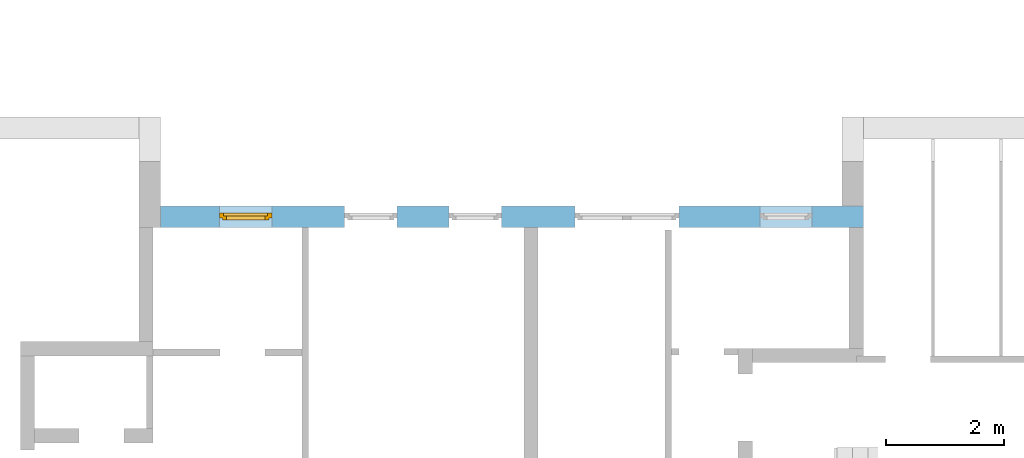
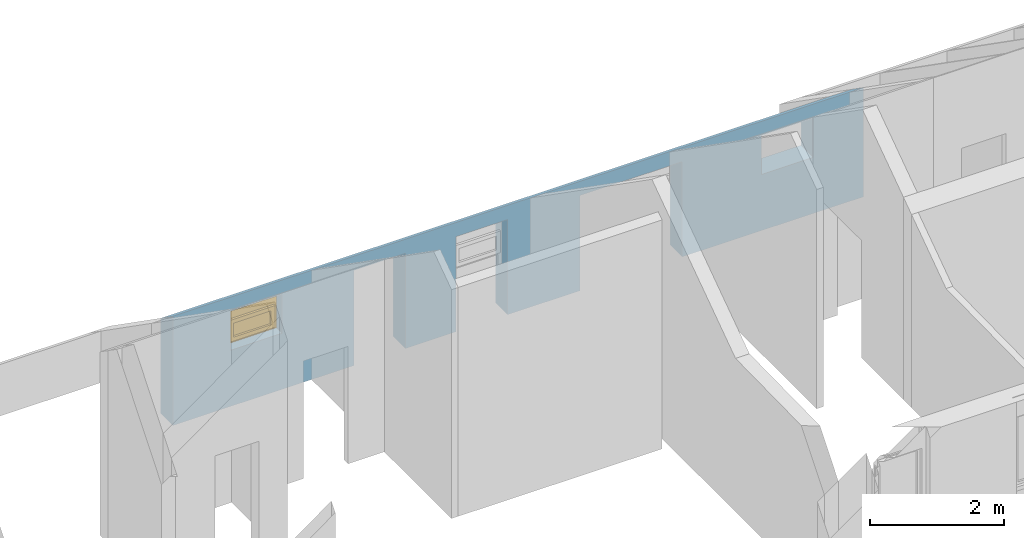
# One storey, part 20 of 23: 1 window, 5 openings, plus 1 element that does not belong to this part.
"""IFC2X3 building model written with IfcOpenShell, lengths in millimetres."""

from ifc_helpers import new_model, entity, si_unit, converted_unit, frame, frame_2d, origin, origin_with_axes, place, context, subcontext, project, spatial, rectangle, extrude, clip, halfspace, faceted_brep, material, layer, layer_set, layer_usage, type_object, element, fill, save


model = new_model("IFC2X3")

# Units and contexts
model_context = context("Model", 3, precision=1e-05, world=origin())
body_context = subcontext(model_context, "Body", "Model", "MODEL_VIEW")
ifc_project = project(units=[si_unit("LENGTHUNIT", "METRE", prefix="MILLI"), converted_unit("PLANEANGLEUNIT", "DEGREE", entity("IfcPlaneAngleMeasure", 0.0174532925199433), si_unit("PLANEANGLEUNIT", "RADIAN"), dimensions=[0, 0, 0, 0, 0, 0, 0]), si_unit("AREAUNIT", "SQUARE_METRE"), si_unit("VOLUMEUNIT", "CUBIC_METRE")], contexts=[model_context])

# Building, storey
building_placement = place(None, origin())
building = spatial("IfcBuilding", under=ifc_project, at=building_placement, Name="Gebäude", CompositionType="ELEMENT")
storey_placement = place(building_placement, frame((0.0, 0.0, 5580.0), z_axis=(0.0, 0.0, 1.0), x_axis=(1.0, 0.0, 0.0)))
storey = spatial("IfcBuildingStorey", under=building, at=storey_placement, Name="DG.- Grundriss", CompositionType="ELEMENT", Elevation=5580.0)

# Wall, openings, window
ifc_material_1 = material(Name="Poroton")
ifc_layer = layer(ifc_material_1, 365.0000000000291)
ifc_layer_set = layer_set([ifc_layer])
ifc_layer_usage = layer_usage(ifc_layer_set, "AXIS2", "POSITIVE", 0.0)
wall_placement = place(storey_placement, frame((176237.7928067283, 134774.8877324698, 0.0), z_axis=(0.0, 0.0, 1.0), x_axis=(-1.0, 0.0, 0.0)))
wall = element("IfcWallStandardCase", 1, at=wall_placement, inside=storey, material=ifc_layer_usage, Name="<Unnamed Element>", context=body_context, shape_type="Clipping", body=[
    clip(extrude(rectangle(XDim=11869.99999999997, YDim=365.0000000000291, at=frame_2d((5934.999999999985, 182.5000000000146), x_axis=(1.0, 0.0))), origin_with_axes(), (0.0, 0.0, 1.0), 1985.88705876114), halfspace(frame((0.0, 0.0, 1730.311307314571), z_axis=(3.082338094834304e-17, 0.5735764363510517, -0.8191520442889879), x_axis=(1.0, 0.0, 0.0)), True)),
])
opening_1_placement = place(wall_placement, frame((7875.000000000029, 0.0, 0.0), z_axis=(0.0, 1.0, 0.0), x_axis=(0.0, 0.0, 1.0)))
element("IfcOpeningElement", 2, at=opening_1_placement, cuts=wall, Name="Fensteröffnung", ObjectType="Opening", context=body_context, shape_type="SweptSolid", body=[
    extrude(rectangle(XDim=1730.311307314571, YDim=885.0, at=frame_2d((865.1556536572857, 442.5), x_axis=(1.0, 0.0))), origin_with_axes(), (0.0, 0.0, 1.0), 365.0000000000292),
])
opening_2_placement = place(wall_placement, frame((6115.000000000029, 0.0, 0.0), z_axis=(0.0, 1.0, 0.0), x_axis=(0.0, 0.0, 1.0)))
element("IfcOpeningElement", 3, at=opening_2_placement, cuts=wall, Name="Fensteröffnung", ObjectType="Opening", context=body_context, shape_type="SweptSolid", body=[
    extrude(rectangle(XDim=1730.311307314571, YDim=885.0, at=frame_2d((865.1556536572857, 442.5), x_axis=(1.0, 0.0))), origin_with_axes(), (0.0, 0.0, 1.0), 365.0000000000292),
])
opening_3_placement = place(wall_placement, frame((9990.00000000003, 0.0, 1020.0), z_axis=(0.0, 1.0, 0.0), x_axis=(0.0, 0.0, 1.0)))
opening_3 = element("IfcOpeningElement", 4, at=opening_3_placement, cuts=wall, Name="Fensteröffnung", ObjectType="Opening", context=body_context, shape_type="SweptSolid", body=[
    extrude(rectangle(XDim=710.3113073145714, YDim=885.0, at=frame_2d((355.1556536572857, 442.5), x_axis=(1.0, 0.0))), origin_with_axes(), (0.0, 0.0, 1.0), 365.0000000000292),
])
opening_4_placement = place(wall_placement, frame((3115.000000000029, 0.0, 0.0), z_axis=(0.0, 1.0, 0.0), x_axis=(0.0, 0.0, 1.0)))
element("IfcOpeningElement", 5, at=opening_4_placement, cuts=wall, Name="Fensteröffnung", ObjectType="Opening", context=body_context, shape_type="SweptSolid", body=[
    extrude(rectangle(XDim=1730.311307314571, YDim=1760.0, at=frame_2d((865.1556536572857, 880.0), x_axis=(1.0, 0.0))), origin_with_axes(), (0.0, 0.0, 1.0), 365.0000000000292),
])
opening_5_placement = place(wall_placement, frame((865.0000000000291, 0.0, 1020.0), z_axis=(0.0, 1.0, 0.0), x_axis=(0.0, 0.0, 1.0)))
element("IfcOpeningElement", 6, at=opening_5_placement, cuts=wall, Name="Fensteröffnung", ObjectType="Opening", context=body_context, shape_type="SweptSolid", body=[
    extrude(rectangle(XDim=710.3113073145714, YDim=885.0, at=frame_2d((355.1556536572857, 442.5), x_axis=(1.0, 0.0))), origin_with_axes(), (0.0, 0.0, 1.0), 365.0000000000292),
])
ifc_material_2 = material()
window_style = type_object("IfcWindowStyle", Name="Fenster", ConstructionType="NOTDEFINED", OperationType="USERDEFINED", ParameterTakesPrecedence=False, Sizeable=False)
window_placement = place(opening_3_placement, frame((0.0, 0.0, 0.0), z_axis=(1.0, 0.0, 0.0), x_axis=(0.0, 1.0, 0.0)))
window = element("IfcWindow", 7, at=window_placement, inside=storey, type_object=window_style, material=ifc_material_2, Name="Fenster", OverallHeight=965.88705876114, OverallWidth=885.0, context=body_context, shape_type="Brep", body=[
    faceted_brep([(9.79717439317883e-15, 200.000000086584, 794.3362119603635), (9.797174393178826e-15, 200.0000000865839, -2.449293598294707e-15), (70.00000000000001, 200.0000000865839, -2.449293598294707e-15), (70.00000000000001, 200.0000000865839, 794.3362119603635), (0.0, 120.0000000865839, 2.449293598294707e-15), (5.220983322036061e-30, 120.0000000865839, 794.3362119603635), (70.0, 120.0000000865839, 794.3362119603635), (70.0, 120.0000000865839, 2.449293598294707e-15), (9.797174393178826e-15, 200.0000000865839, -2.449293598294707e-15), (9.79717439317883e-15, 200.000000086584, 794.3362119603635), (5.220983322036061e-30, 120.0000000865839, 794.3362119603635), (0.0, 120.0000000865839, 2.449293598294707e-15), (70.00000000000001, 200.0000000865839, -2.449293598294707e-15), (9.797174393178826e-15, 200.0000000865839, -2.449293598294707e-15), (0.0, 120.0000000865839, 2.449293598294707e-15), (70.0, 120.0000000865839, 2.449293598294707e-15), (70.00000000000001, 200.0000000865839, 794.3362119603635), (70.00000000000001, 200.0000000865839, -2.449293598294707e-15), (70.0, 120.0000000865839, 2.449293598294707e-15), (70.0, 120.0000000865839, 794.3362119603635), (9.79717439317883e-15, 200.000000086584, 794.3362119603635), (70.00000000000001, 200.0000000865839, 794.3362119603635), (70.0, 120.0000000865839, 794.3362119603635), (5.220983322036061e-30, 120.0000000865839, 794.3362119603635)], [[[0, 1, 2, 3]], [[4, 5, 6, 7]], [[8, 9, 10, 11]], [[12, 13, 14, 15]], [[16, 17, 18, 19]], [[20, 21, 22, 23]]], orient=[[False], [False], [False], [False], [False], [False]]),
    faceted_brep([(815.0000000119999, 200.0000000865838, 794.3362119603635), (815.0000000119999, 200.0000000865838, -2.449293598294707e-15), (885.0000000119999, 200.0000000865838, -2.449293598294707e-15), (885.0000000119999, 200.0000000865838, 794.3362119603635), (815.0000000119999, 120.0000000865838, 2.449293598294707e-15), (815.0000000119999, 120.0000000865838, 794.3362119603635), (885.0000000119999, 120.0000000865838, 794.3362119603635), (885.0000000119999, 120.0000000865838, 2.449293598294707e-15), (815.0000000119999, 200.0000000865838, -2.449293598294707e-15), (815.0000000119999, 200.0000000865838, 794.3362119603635), (815.0000000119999, 120.0000000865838, 794.3362119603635), (815.0000000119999, 120.0000000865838, 2.449293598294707e-15), (885.0000000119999, 200.0000000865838, -2.449293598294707e-15), (815.0000000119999, 200.0000000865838, -2.449293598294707e-15), (815.0000000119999, 120.0000000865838, 2.449293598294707e-15), (885.0000000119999, 120.0000000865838, 2.449293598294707e-15), (885.0000000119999, 200.0000000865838, 794.3362119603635), (885.0000000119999, 200.0000000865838, -2.449293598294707e-15), (885.0000000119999, 120.0000000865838, 2.449293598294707e-15), (885.0000000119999, 120.0000000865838, 794.3362119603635), (815.0000000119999, 200.0000000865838, 794.3362119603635), (885.0000000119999, 200.0000000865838, 794.3362119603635), (885.0000000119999, 120.0000000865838, 794.3362119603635), (815.0000000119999, 120.0000000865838, 794.3362119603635)], [[[0, 1, 2, 3]], [[4, 5, 6, 7]], [[8, 9, 10, 11]], [[12, 13, 14, 15]], [[16, 17, 18, 19]], [[20, 21, 22, 23]]], orient=[[False], [False], [False], [False], [False], [False]]),
    faceted_brep([(70.00000000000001, 200.0000000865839, 70.0), (70.00000000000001, 200.0000000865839, -2.449293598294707e-15), (815.0000000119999, 200.0000000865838, -2.449293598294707e-15), (815.0000000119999, 200.0000000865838, 70.0), (70.0, 120.0000000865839, 2.449293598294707e-15), (70.0, 120.0000000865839, 70.0), (815.0000000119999, 120.0000000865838, 70.0), (815.0000000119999, 120.0000000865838, 2.449293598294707e-15), (70.00000000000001, 200.0000000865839, -2.449293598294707e-15), (70.00000000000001, 200.0000000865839, 70.0), (70.0, 120.0000000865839, 70.0), (70.0, 120.0000000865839, 2.449293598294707e-15), (815.0000000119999, 200.0000000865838, -2.449293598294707e-15), (70.00000000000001, 200.0000000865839, -2.449293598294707e-15), (70.0, 120.0000000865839, 2.449293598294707e-15), (815.0000000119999, 120.0000000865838, 2.449293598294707e-15), (815.0000000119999, 200.0000000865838, 70.0), (815.0000000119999, 200.0000000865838, -2.449293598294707e-15), (815.0000000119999, 120.0000000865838, 2.449293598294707e-15), (815.0000000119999, 120.0000000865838, 70.0), (70.00000000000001, 200.0000000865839, 70.0), (815.0000000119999, 200.0000000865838, 70.0), (815.0000000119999, 120.0000000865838, 70.0), (70.0, 120.0000000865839, 70.0)], [[[0, 1, 2, 3]], [[4, 5, 6, 7]], [[8, 9, 10, 11]], [[12, 13, 14, 15]], [[16, 17, 18, 19]], [[20, 21, 22, 23]]], orient=[[False], [False], [False], [False], [False], [False]]),
    faceted_brep([(70.00000000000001, 200.000000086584, 794.3362119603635), (70.00000000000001, 200.0000000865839, 424.3362119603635), (815.0000000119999, 200.0000000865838, 424.3362119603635), (815.0000000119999, 200.0000000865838, 794.3362119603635), (70.0, 120.0000000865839, 424.3362119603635), (70.0, 120.0000000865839, 794.3362119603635), (815.0000000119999, 120.0000000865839, 794.3362119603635), (815.0000000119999, 120.0000000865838, 424.3362119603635), (70.00000000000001, 200.0000000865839, 424.3362119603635), (70.00000000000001, 200.000000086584, 794.3362119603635), (70.0, 120.0000000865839, 794.3362119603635), (70.0, 120.0000000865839, 424.3362119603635), (815.0000000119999, 200.0000000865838, 424.3362119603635), (70.00000000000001, 200.0000000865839, 424.3362119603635), (70.0, 120.0000000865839, 424.3362119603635), (815.0000000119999, 120.0000000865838, 424.3362119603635), (815.0000000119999, 200.0000000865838, 794.3362119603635), (815.0000000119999, 200.0000000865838, 424.3362119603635), (815.0000000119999, 120.0000000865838, 424.3362119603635), (815.0000000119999, 120.0000000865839, 794.3362119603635), (70.00000000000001, 200.000000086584, 794.3362119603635), (815.0000000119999, 200.0000000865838, 794.3362119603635), (815.0000000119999, 120.0000000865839, 794.3362119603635), (70.0, 120.0000000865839, 794.3362119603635)], [[[0, 1, 2, 3]], [[4, 5, 6, 7]], [[8, 9, 10, 11]], [[12, 13, 14, 15]], [[16, 17, 18, 19]], [[20, 21, 22, 23]]], orient=[[False], [False], [False], [False], [False], [False]]),
    faceted_brep([(50.00000000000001, 240.0000000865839, 444.3362119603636), (50.00000000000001, 240.0000000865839, 50.0), (120.0, 240.0000000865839, 50.0), (120.0, 240.0000000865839, 444.3362119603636), (50.00000000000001, 170.0000000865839, 50.00000000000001), (50.00000000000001, 170.0000000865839, 444.3362119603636), (120.0, 170.0000000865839, 444.3362119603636), (120.0, 170.0000000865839, 50.00000000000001), (50.00000000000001, 240.0000000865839, 50.0), (50.00000000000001, 240.0000000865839, 444.3362119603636), (50.00000000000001, 170.0000000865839, 444.3362119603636), (50.00000000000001, 170.0000000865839, 50.00000000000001), (120.0, 240.0000000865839, 50.0), (50.00000000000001, 240.0000000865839, 50.0), (50.00000000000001, 170.0000000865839, 50.00000000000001), (120.0, 170.0000000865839, 50.00000000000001), (120.0, 240.0000000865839, 444.3362119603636), (120.0, 240.0000000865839, 50.0), (120.0, 170.0000000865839, 50.00000000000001), (120.0, 170.0000000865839, 444.3362119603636), (50.00000000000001, 240.0000000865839, 444.3362119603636), (120.0, 240.0000000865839, 444.3362119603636), (120.0, 170.0000000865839, 444.3362119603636), (50.00000000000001, 170.0000000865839, 444.3362119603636)], [[[0, 1, 2, 3]], [[4, 5, 6, 7]], [[8, 9, 10, 11]], [[12, 13, 14, 15]], [[16, 17, 18, 19]], [[20, 21, 22, 23]]], orient=[[False], [False], [False], [False], [False], [False]]),
    faceted_brep([(765.0000000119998, 240.0000000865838, 444.3362119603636), (765.0000000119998, 240.0000000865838, 50.0), (835.0000000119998, 240.0000000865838, 50.0), (835.0000000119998, 240.0000000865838, 444.3362119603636), (765.0000000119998, 170.0000000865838, 50.00000000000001), (765.0000000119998, 170.0000000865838, 444.3362119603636), (835.0000000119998, 170.0000000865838, 444.3362119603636), (835.0000000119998, 170.0000000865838, 50.00000000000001), (765.0000000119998, 240.0000000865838, 50.0), (765.0000000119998, 240.0000000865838, 444.3362119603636), (765.0000000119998, 170.0000000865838, 444.3362119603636), (765.0000000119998, 170.0000000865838, 50.00000000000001), (835.0000000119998, 240.0000000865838, 50.0), (765.0000000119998, 240.0000000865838, 50.0), (765.0000000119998, 170.0000000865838, 50.00000000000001), (835.0000000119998, 170.0000000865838, 50.00000000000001), (835.0000000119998, 240.0000000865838, 444.3362119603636), (835.0000000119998, 240.0000000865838, 50.0), (835.0000000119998, 170.0000000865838, 50.00000000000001), (835.0000000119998, 170.0000000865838, 444.3362119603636), (765.0000000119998, 240.0000000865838, 444.3362119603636), (835.0000000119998, 240.0000000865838, 444.3362119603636), (835.0000000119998, 170.0000000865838, 444.3362119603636), (765.0000000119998, 170.0000000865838, 444.3362119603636)], [[[0, 1, 2, 3]], [[4, 5, 6, 7]], [[8, 9, 10, 11]], [[12, 13, 14, 15]], [[16, 17, 18, 19]], [[20, 21, 22, 23]]], orient=[[False], [False], [False], [False], [False], [False]]),
    faceted_brep([(120.0, 240.0000000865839, 120.0), (120.0, 240.0000000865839, 50.0), (765.0000000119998, 240.0000000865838, 50.0), (765.0000000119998, 240.0000000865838, 120.0), (120.0, 170.0000000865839, 50.00000000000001), (120.0, 170.0000000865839, 120.0), (765.0000000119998, 170.0000000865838, 120.0), (765.0000000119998, 170.0000000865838, 50.00000000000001), (120.0, 240.0000000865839, 50.0), (120.0, 240.0000000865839, 120.0), (120.0, 170.0000000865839, 120.0), (120.0, 170.0000000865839, 50.00000000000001), (765.0000000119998, 240.0000000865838, 50.0), (120.0, 240.0000000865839, 50.0), (120.0, 170.0000000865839, 50.00000000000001), (765.0000000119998, 170.0000000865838, 50.00000000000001), (765.0000000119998, 240.0000000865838, 120.0), (765.0000000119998, 240.0000000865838, 50.0), (765.0000000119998, 170.0000000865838, 50.00000000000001), (765.0000000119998, 170.0000000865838, 120.0), (120.0, 240.0000000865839, 120.0), (765.0000000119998, 240.0000000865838, 120.0), (765.0000000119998, 170.0000000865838, 120.0), (120.0, 170.0000000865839, 120.0)], [[[0, 1, 2, 3]], [[4, 5, 6, 7]], [[8, 9, 10, 11]], [[12, 13, 14, 15]], [[16, 17, 18, 19]], [[20, 21, 22, 23]]], orient=[[False], [False], [False], [False], [False], [False]]),
    faceted_brep([(120.0, 240.0000000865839, 444.3362119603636), (120.0, 240.0000000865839, 374.3362119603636), (765.0000000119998, 240.0000000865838, 374.3362119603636), (765.0000000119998, 240.0000000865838, 444.3362119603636), (120.0, 170.0000000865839, 374.3362119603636), (120.0, 170.0000000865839, 444.3362119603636), (765.0000000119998, 170.0000000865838, 444.3362119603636), (765.0000000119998, 170.0000000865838, 374.3362119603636), (120.0, 240.0000000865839, 374.3362119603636), (120.0, 240.0000000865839, 444.3362119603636), (120.0, 170.0000000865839, 444.3362119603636), (120.0, 170.0000000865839, 374.3362119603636), (765.0000000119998, 240.0000000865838, 374.3362119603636), (120.0, 240.0000000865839, 374.3362119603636), (120.0, 170.0000000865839, 374.3362119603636), (765.0000000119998, 170.0000000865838, 374.3362119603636), (765.0000000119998, 240.0000000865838, 444.3362119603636), (765.0000000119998, 240.0000000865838, 374.3362119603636), (765.0000000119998, 170.0000000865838, 374.3362119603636), (765.0000000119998, 170.0000000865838, 444.3362119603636), (120.0, 240.0000000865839, 444.3362119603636), (765.0000000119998, 240.0000000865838, 444.3362119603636), (765.0000000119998, 170.0000000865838, 444.3362119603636), (120.0, 170.0000000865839, 444.3362119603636)], [[[0, 1, 2, 3]], [[4, 5, 6, 7]], [[8, 9, 10, 11]], [[12, 13, 14, 15]], [[16, 17, 18, 19]], [[20, 21, 22, 23]]], orient=[[False], [False], [False], [False], [False], [False]]),
    faceted_brep([(120.0, 205.0000000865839, 120.0), (765.0000000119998, 205.0000000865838, 120.0), (765.0000000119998, 205.0000000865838, 374.3362119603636), (120.0, 205.0000000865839, 374.3362119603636), (120.0, 204.0000000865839, 120.0), (120.0, 204.0000000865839, 374.3362119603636), (765.0000000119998, 204.0000000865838, 374.3362119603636), (765.0000000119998, 204.0000000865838, 120.0), (120.0, 205.0000000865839, 120.0), (120.0, 204.0000000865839, 120.0), (765.0000000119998, 204.0000000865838, 120.0), (765.0000000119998, 205.0000000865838, 120.0), (765.0000000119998, 205.0000000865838, 120.0), (765.0000000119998, 204.0000000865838, 120.0), (765.0000000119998, 204.0000000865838, 374.3362119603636), (765.0000000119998, 205.0000000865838, 374.3362119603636), (765.0000000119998, 205.0000000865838, 374.3362119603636), (765.0000000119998, 204.0000000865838, 374.3362119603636), (120.0, 204.0000000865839, 374.3362119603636), (120.0, 205.0000000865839, 374.3362119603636), (120.0, 205.0000000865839, 374.3362119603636), (120.0, 204.0000000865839, 374.3362119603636), (120.0, 204.0000000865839, 120.0), (120.0, 205.0000000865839, 120.0)], [[[0, 1, 2, 3]], [[4, 5, 6, 7]], [[8, 9, 10, 11]], [[12, 13, 14, 15]], [[16, 17, 18, 19]], [[20, 21, 22, 23]]], orient=[[False], [False], [False], [False], [False], [False]]),
])
fill(opening_3, window)

save(model, "model.ifc")
